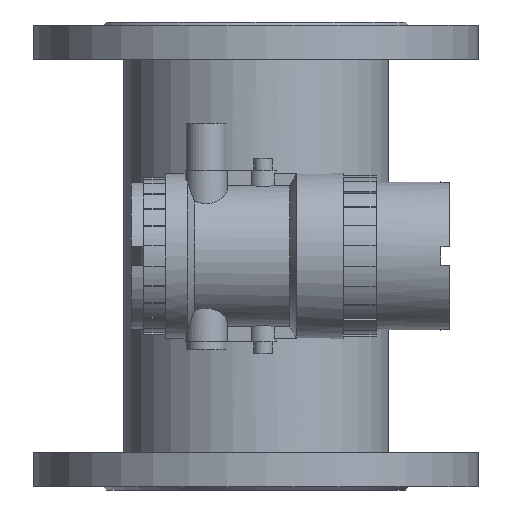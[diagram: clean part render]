
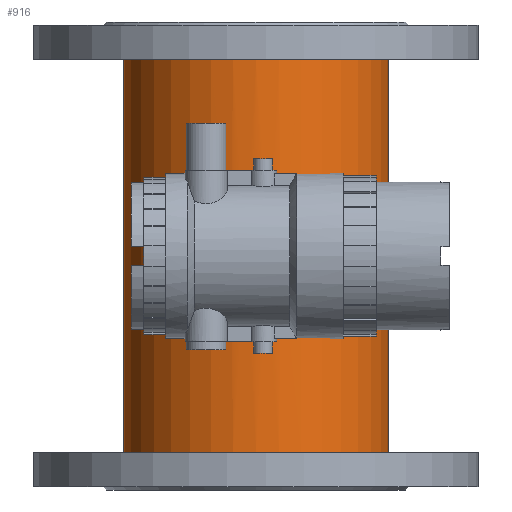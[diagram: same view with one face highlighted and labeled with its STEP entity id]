
A CAD part, left-side view. The second image highlights one B-rep face of the part: STEP entity #916.
In plain terms, the highlighted cylindrical face has radius 85 mm (diameter 170 mm), a full revolution.
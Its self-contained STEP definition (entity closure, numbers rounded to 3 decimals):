
#916=ADVANCED_FACE('',(#1256,#1257,#1258),#1131,.T.);
#1131=CYLINDRICAL_SURFACE('',#3904,85.);
#1232=B_SPLINE_CURVE_WITH_KNOTS('',3,(#5491,#5492,#5493,#5494,#5495,#5496,
#5497,#5498,#5499,#5500,#5501,#5502,#5503,#5504,#5505,#5506,#5507,#5508,
#5509,#5510,#5511,#5512),.UNSPECIFIED.,.T.,.F.,(2,2,2,2,2,2,2,2,2,2,2,2,
2),(-0.125,0.,0.062,0.125,0.25,
0.375,0.437,0.5,0.625,
0.75,0.875,1.,1.063),.UNSPECIFIED.);
#1256=FACE_BOUND('',#1398,.T.);
#1257=FACE_BOUND('',#1399,.T.);
#1258=FACE_BOUND('',#1400,.T.);
#1398=EDGE_LOOP('',(#1704));
#1399=EDGE_LOOP('',(#1705));
#1400=EDGE_LOOP('',(#1706));
#1704=ORIENTED_EDGE('',*,*,#3153,.F.);
#1705=ORIENTED_EDGE('',*,*,#3154,.T.);
#1706=ORIENTED_EDGE('',*,*,#3155,.F.);
#2774=VERTEX_POINT('',#5488);
#2775=VERTEX_POINT('',#5490);
#2776=VERTEX_POINT('',#5513);
#3153=EDGE_CURVE('',#2774,#2774,#3688,.T.);
#3154=EDGE_CURVE('',#2775,#2775,#3689,.T.);
#3155=EDGE_CURVE('',#2776,#2776,#1232,.T.);
#3688=CIRCLE('',#3902,85.);
#3689=CIRCLE('',#3903,85.);
#3902=AXIS2_PLACEMENT_3D('',#5487,#4332,#4333);
#3903=AXIS2_PLACEMENT_3D('',#5489,#4334,#4335);
#3904=AXIS2_PLACEMENT_3D('',#5514,#4336,#4337);
#4332=DIRECTION('',(0.,0.,-1.));
#4333=DIRECTION('',(-1.,0.,0.));
#4334=DIRECTION('',(0.,0.,-1.));
#4335=DIRECTION('',(1.,0.,0.));
#4336=DIRECTION('',(0.,0.,1.));
#4337=DIRECTION('',(1.,0.,0.));
#5487=CARTESIAN_POINT('',(243.8,0.,-249.5));
#5488=CARTESIAN_POINT('',(158.8,0.,-249.5));
#5489=CARTESIAN_POINT('',(243.8,0.,2.5));
#5490=CARTESIAN_POINT('',(328.8,0.,2.5));
#5491=CARTESIAN_POINT('',(158.8,4.238,-139.5));
#5492=CARTESIAN_POINT('',(158.8,-2.119,-139.5));
#5493=CARTESIAN_POINT('',(158.882,-4.198,-139.081));
#5494=CARTESIAN_POINT('',(159.162,-8.071,-137.473));
#5495=CARTESIAN_POINT('',(159.359,-9.843,-136.285));
#5496=CARTESIAN_POINT('',(159.952,-14.26,-131.867));
#5497=CARTESIAN_POINT('',(160.319,-15.998,-127.694));
#5498=CARTESIAN_POINT('',(160.32,-16.002,-119.325));
#5499=CARTESIAN_POINT('',(159.956,-14.292,-115.166));
#5500=CARTESIAN_POINT('',(159.357,-9.829,-110.701));
#5501=CARTESIAN_POINT('',(159.162,-8.068,-109.525));
#5502=CARTESIAN_POINT('',(158.882,-4.199,-107.919));
#5503=CARTESIAN_POINT('',(158.8,-2.097,-107.501));
#5504=CARTESIAN_POINT('',(158.8,4.175,-107.498));
#5505=CARTESIAN_POINT('',(159.159,8.351,-109.229));
#5506=CARTESIAN_POINT('',(159.951,14.256,-115.123));
#5507=CARTESIAN_POINT('',(160.319,15.997,-119.261));
#5508=CARTESIAN_POINT('',(160.32,16.003,-127.715));
#5509=CARTESIAN_POINT('',(159.953,14.263,-131.86));
#5510=CARTESIAN_POINT('',(159.162,8.382,-137.75));
#5511=CARTESIAN_POINT('',(158.8,4.238,-139.5));
#5512=CARTESIAN_POINT('',(158.8,-2.119,-139.5));
#5513=CARTESIAN_POINT('',(158.8,0.,-139.5));
#5514=CARTESIAN_POINT('',(243.8,0.,-360.5));
